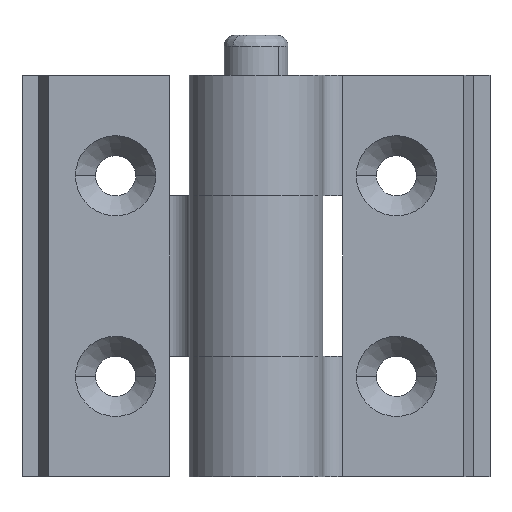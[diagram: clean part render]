
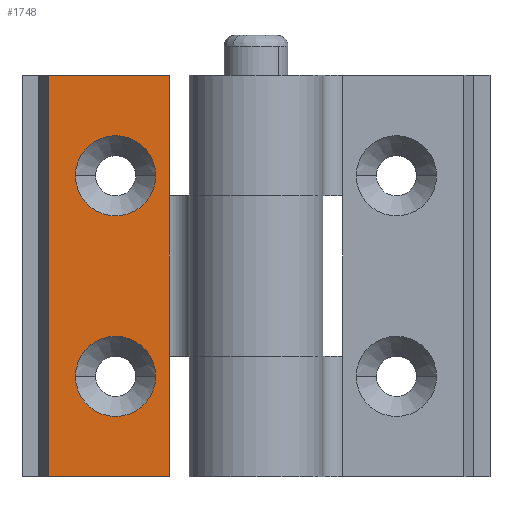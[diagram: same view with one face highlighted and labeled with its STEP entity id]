
A CAD part, front view. The second image highlights one B-rep face of the part: STEP entity #1748.
In plain terms, the highlighted planar face has unit normal (0, -1, 0).
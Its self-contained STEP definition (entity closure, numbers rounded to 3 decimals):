
#1258=CARTESIAN_POINT('',(-0.231,2.,6.));
#1259=VERTEX_POINT('',#1258);
#1267=CARTESIAN_POINT('',(-0.231,2.,-6.));
#1268=VERTEX_POINT('',#1267);
#1269=CARTESIAN_POINT('',(-0.231,2.,-6.));
#1270=DIRECTION('',(0.0,0.0,1.0));
#1271=VECTOR('',#1270,12.0);
#1272=LINE('',#1269,#1271);
#1273=EDGE_CURVE('',#1268,#1259,#1272,.T.);
#1332=CARTESIAN_POINT('',(-7.25,2.,7.5));
#1333=VERTEX_POINT('',#1332);
#1341=CARTESIAN_POINT('',(-1.25,2.,7.5));
#1342=VERTEX_POINT('',#1341);
#1349=CARTESIAN_POINT('',(-4.25,2.,7.5));
#1350=DIRECTION('',(0.0,1.0,0.0));
#1351=DIRECTION('',(-1.0,0.0,0.0));
#1352=AXIS2_PLACEMENT_3D('',#1349,#1350,#1351);
#1353=CIRCLE('',#1352,3.);
#1354=EDGE_CURVE('',#1333,#1342,#1353,.T.);
#1406=CARTESIAN_POINT('',(-7.25,2.,-7.5));
#1407=VERTEX_POINT('',#1406);
#1415=CARTESIAN_POINT('',(-1.25,2.,-7.5));
#1416=VERTEX_POINT('',#1415);
#1423=CARTESIAN_POINT('',(-4.25,2.,-7.5));
#1424=DIRECTION('',(0.0,1.0,0.0));
#1425=DIRECTION('',(-1.0,0.0,0.0));
#1426=AXIS2_PLACEMENT_3D('',#1423,#1424,#1425);
#1427=CIRCLE('',#1426,3.);
#1428=EDGE_CURVE('',#1407,#1416,#1427,.T.);
#1505=CARTESIAN_POINT('',(-4.25,2.,-7.5));
#1506=DIRECTION('',(0.0,1.0,0.0));
#1507=DIRECTION('',(-1.0,0.0,0.0));
#1508=AXIS2_PLACEMENT_3D('',#1505,#1506,#1507);
#1509=CIRCLE('',#1508,3.);
#1510=EDGE_CURVE('',#1416,#1407,#1509,.T.);
#1547=CARTESIAN_POINT('',(-4.25,2.,7.5));
#1548=DIRECTION('',(0.0,1.0,0.0));
#1549=DIRECTION('',(-1.0,0.0,0.0));
#1550=AXIS2_PLACEMENT_3D('',#1547,#1548,#1549);
#1551=CIRCLE('',#1550,3.);
#1552=EDGE_CURVE('',#1342,#1333,#1551,.T.);
#1597=CARTESIAN_POINT('',(-0.25,2.,6.));
#1598=VERTEX_POINT('',#1597);
#1605=CARTESIAN_POINT('',(-0.231,2.,6.));
#1606=DIRECTION('',(-1.0,0.0,0.0));
#1607=VECTOR('',#1606,0.019);
#1608=LINE('',#1605,#1607);
#1609=EDGE_CURVE('',#1259,#1598,#1608,.T.);
#1641=CARTESIAN_POINT('',(-0.25,2.,15.0));
#1642=VERTEX_POINT('',#1641);
#1643=CARTESIAN_POINT('',(-0.25,2.,6.));
#1644=DIRECTION('',(0.0,0.0,1.0));
#1645=VECTOR('',#1644,9.);
#1646=LINE('',#1643,#1645);
#1647=EDGE_CURVE('',#1598,#1642,#1646,.T.);
#1692=CARTESIAN_POINT('',(-0.231,2.,-15.));
#1693=DIRECTION('',(0.0,-1.0,0.0));
#1694=DIRECTION('',(1.0,0.0,0.0));
#1695=AXIS2_PLACEMENT_3D('',#1692,#1693,#1694);
#1696=PLANE('',#1695);
#1697=ORIENTED_EDGE('',*,*,#1609,.T.);
#1698=ORIENTED_EDGE('',*,*,#1647,.T.);
#1699=CARTESIAN_POINT('',(-9.3,2.,15.0));
#1700=VERTEX_POINT('',#1699);
#1701=CARTESIAN_POINT('',(-0.25,2.,15.0));
#1702=DIRECTION('',(-1.0,0.0,0.0));
#1703=VECTOR('',#1702,9.05);
#1704=LINE('',#1701,#1703);
#1705=EDGE_CURVE('',#1642,#1700,#1704,.T.);
#1706=ORIENTED_EDGE('',*,*,#1705,.T.);
#1707=CARTESIAN_POINT('',(-9.3,2.,-15.));
#1708=VERTEX_POINT('',#1707);
#1709=CARTESIAN_POINT('',(-9.3,2.,-15.));
#1710=DIRECTION('',(0.0,0.0,1.0));
#1711=VECTOR('',#1710,30.0);
#1712=LINE('',#1709,#1711);
#1713=EDGE_CURVE('',#1708,#1700,#1712,.T.);
#1714=ORIENTED_EDGE('',*,*,#1713,.F.);
#1715=CARTESIAN_POINT('',(-0.25,2.,-15.));
#1716=VERTEX_POINT('',#1715);
#1717=CARTESIAN_POINT('',(-0.25,2.,-15.));
#1718=DIRECTION('',(-1.0,0.0,0.0));
#1719=VECTOR('',#1718,9.05);
#1720=LINE('',#1717,#1719);
#1721=EDGE_CURVE('',#1716,#1708,#1720,.T.);
#1722=ORIENTED_EDGE('',*,*,#1721,.F.);
#1723=CARTESIAN_POINT('',(-0.25,2.,-6.));
#1724=VERTEX_POINT('',#1723);
#1725=CARTESIAN_POINT('',(-0.25,2.,-15.));
#1726=DIRECTION('',(0.0,0.0,1.0));
#1727=VECTOR('',#1726,9.0);
#1728=LINE('',#1725,#1727);
#1729=EDGE_CURVE('',#1716,#1724,#1728,.T.);
#1730=ORIENTED_EDGE('',*,*,#1729,.T.);
#1731=CARTESIAN_POINT('',(-0.25,2.,-6.));
#1732=DIRECTION('',(1.0,0.0,0.0));
#1733=VECTOR('',#1732,0.019);
#1734=LINE('',#1731,#1733);
#1735=EDGE_CURVE('',#1724,#1268,#1734,.T.);
#1736=ORIENTED_EDGE('',*,*,#1735,.T.);
#1737=ORIENTED_EDGE('',*,*,#1273,.T.);
#1738=EDGE_LOOP('',(#1697,#1698,#1706,#1714,#1722,#1730,#1736,#1737));
#1739=FACE_OUTER_BOUND('',#1738,.T.);
#1740=ORIENTED_EDGE('',*,*,#1428,.T.);
#1741=ORIENTED_EDGE('',*,*,#1510,.T.);
#1742=EDGE_LOOP('',(#1740,#1741));
#1743=FACE_BOUND('',#1742,.T.);
#1744=ORIENTED_EDGE('',*,*,#1354,.T.);
#1745=ORIENTED_EDGE('',*,*,#1552,.T.);
#1746=EDGE_LOOP('',(#1744,#1745));
#1747=FACE_BOUND('',#1746,.T.);
#1748=ADVANCED_FACE('',(#1739,#1743,#1747),#1696,.T.);
